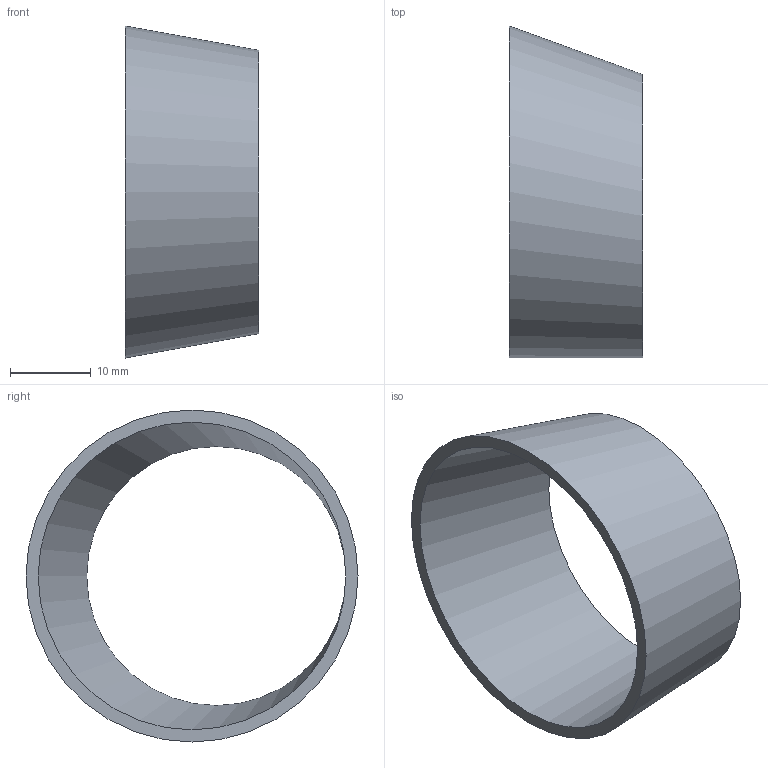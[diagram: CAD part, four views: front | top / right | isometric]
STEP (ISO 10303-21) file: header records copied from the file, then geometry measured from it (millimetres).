
FILE_DESCRIPTION(('FreeCAD Model'),'2;1');
FILE_NAME( '/home/martin/Documents/proyect/accesorios/stp/red-exc_DN40-32.step', '2017-12-31T13:03:18',('Author'),(''), 'Open CASCADE STEP processor 6.8','FreeCAD','Unknown');
FILE_SCHEMA(('AUTOMOTIVE_DESIGN_CC2 { 1 2 10303 214 -1 1 5 4 }'));
Length unit declared in the file: millimetre
Products named in the file (1): red-exc_DN40-32
Bounding box: 16.5 x 41 x 41 mm (x, y, z)
Volume: 2838 mm3; surface area: 4219.7 mm2
Topology: 1 solids, 1 shells, 4 faces, 6 edges, 4 vertices
Faces by surface type: bspline 2, plane 2
Entity records: 247 total; most frequent: CARTESIAN_POINT 87, DIRECTION 26, ORIENTED_EDGE 12, PCURVE 12, DEFINITIONAL_REPRESENTATION 12, CIRCLE 8, LINE 8, VECTOR 8
